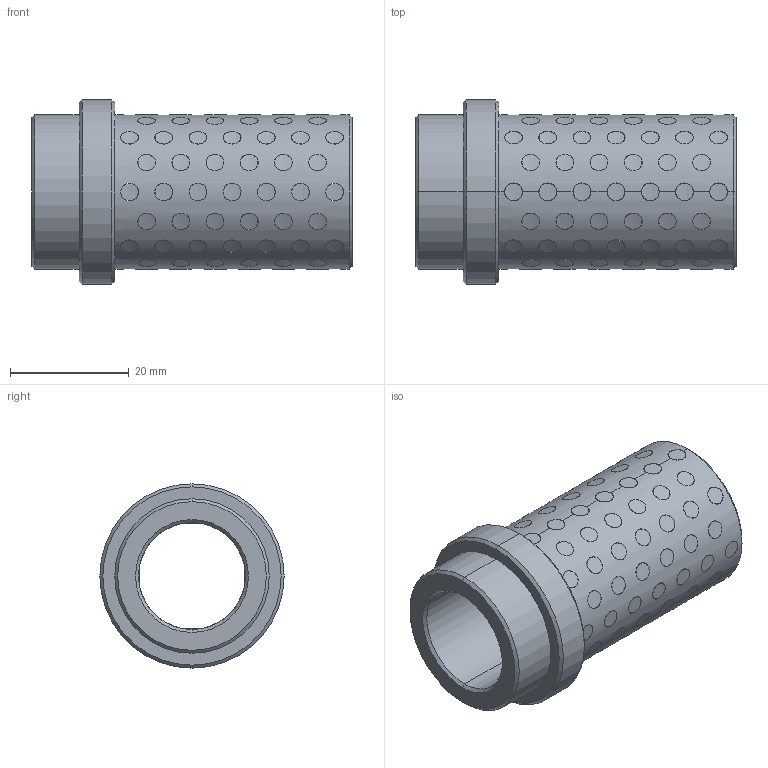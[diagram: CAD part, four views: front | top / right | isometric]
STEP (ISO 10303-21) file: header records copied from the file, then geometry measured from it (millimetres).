
FILE_DESCRIPTION((''),'2;1');
FILE_NAME('G31218046','2017-12-30T',('MANU'),(''),'PRO/ENGINEER BY PARAMETRIC TECHNOLOGY CORPORATION, 2012130','PRO/ENGINEER BY PARAMETRIC TECHNOLOGY CORPORATION, 2012130','');
FILE_SCHEMA(('CONFIG_CONTROL_DESIGN'));
Length unit declared in the file: millimetre
Products named in the file (1): G31218046
Bounding box: 54 x 31 x 31 mm (x, y, z)
Volume: 16115.6 mm3; surface area: 16185 mm2
Topology: 105 solids, 105 shells, 648 faces, 1380 edges, 916 vertices
Faces by surface type: cylinder 632, cone 12, plane 4
Entity records: 29782 total; most frequent: CARTESIAN_POINT 17176, ORIENTED_EDGE 2760, DIRECTION 1816, EDGE_CURVE 1380, VERTEX_POINT 916, B_SPLINE_CURVE_WITH_KNOTS 888, EDGE_LOOP 832, AXIS2_PLACEMENT_3D 676
